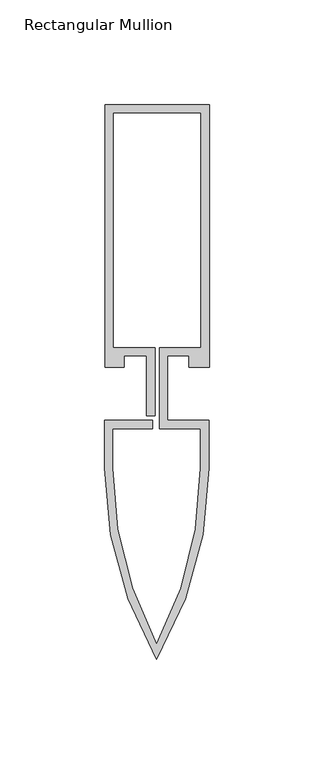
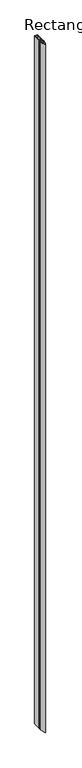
"""IFC4 building model written with IfcOpenShell, lengths in millimetres: member geometry, Rectangular Mullion : Reynaers_CW-50_Transom-Transom_125.5mm_Facecap-05."""

from ifc_helpers import new_model, si_unit, point, frame, frame_2d, origin, place, context, project, spatial, polyline, circle_curve, trimmed, segment, composite_curve, outline, extrude, source, transform, mapped, element, save


def rectangular_mullion_5f3b20f2(model_context):
    return source(origin(), model_context, "Body", "SweptSolid", [
        extrude(outline(composite_curve([segment(polyline([(25.1995941, 12.7331291), (15.499, 12.7331291), (15.499, 18.1331291), (5.2995941, 18.1331291), (5.2995941, -12.7331291), (24.994845, -12.7331291), (24.994845, -35.5313894)]), True, "CONTINUOUS"), segment(trimmed(circle_curve(frame_2d((-153.8920333, -35.5313894)), 178.8868784), [point((24.994845, -35.5313894))], [point((0.0, -126.7331291))], False, "CARTESIAN"), True, "CONTINUOUS"), segment(trimmed(circle_curve(frame_2d((153.8920333, -35.5313894)), 178.8868784), [point((0.0, -126.7331291))], [point((-24.994845, -35.5313894))], False, "CARTESIAN"), True, "CONTINUOUS"), segment(polyline([(-24.994845, -35.5313894), (-24.994845, -12.7331291), (-1.9004059, -12.7331291), (-1.9004059, -16.7331291), (-20.994845, -16.7331291), (-20.994845, -35.5313894)]), True, "CONTINUOUS"), segment(trimmed(circle_curve(frame_2d((158.3679339, -35.5313894)), 179.3627789), [point((-20.994845, -35.5313894))], [point((0.0, -119.7371135))], True, "CARTESIAN"), True, "CONTINUOUS"), segment(trimmed(circle_curve(frame_2d((-158.3679339, -35.5313894)), 179.3627789), [point((0.0, -119.7371135))], [point((20.994845, -35.5313894))], True, "CARTESIAN"), True, "CONTINUOUS"), segment(polyline([(20.994845, -35.5313894), (20.994845, -16.7331291), (1.2995941, -16.7331291), (1.2995941, 22.1331291), (21.1995941, 22.1331291), (21.1995941, 134.2331291), (-20.8004059, 134.2331291), (-20.8004059, 22.1331291), (-0.9004059, 22.1331291), (-0.9004059, -10.5), (-4.9004059, -10.5), (-4.9004059, 18.1331291), (-15.499, 18.1331291), (-15.499, 12.7331291), (-24.8004059, 12.7331291), (-24.8004059, 138.2331291), (25.1995941, 138.2331291), (25.1995941, 12.7331291)]), True, "CONTINUOUS")], self_intersect=False)), frame((0.0, 0.0, -12000.0), z_axis=(0.0, 0.0, 1.0), x_axis=(1.0, 0.0, 0.0)), (0.0, 0.0, 1.0), 12000.0),
    ])


if __name__ == "__main__":
    model = new_model("IFC4")
    model_context = context("Model", 3, world=origin())
    ifc_project = project(units=[si_unit("LENGTHUNIT", "METRE", prefix="MILLI")], contexts=[model_context])
    site = spatial("IfcSite", under=ifc_project)
    building = spatial("IfcBuilding", under=site)
    placement = place(None, origin())
    rectangular_mullion_shape = rectangular_mullion_5f3b20f2(model_context)
    element("IfcMember", 1, ObjectType="Rectangular Mullion : Reynaers_CW-50_Transom-Transom_125.5mm_Facecap-05", at=placement, inside=building, context=model_context, shape_type="MappedRepresentation", body=[
        mapped(rectangular_mullion_shape, transform((0.0, 0.0, 0.0), x_axis=(1.0, 0.0, 0.0), y_axis=(0.0, 1.0, 0.0), z_axis=(0.0, 0.0, 1.0))),
    ])
    save(model, "model.ifc")
